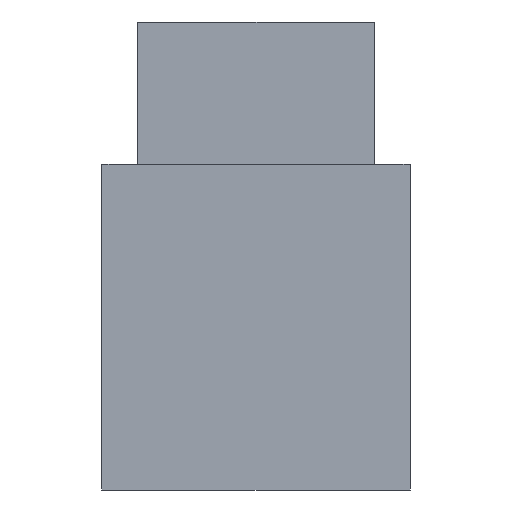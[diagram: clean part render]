
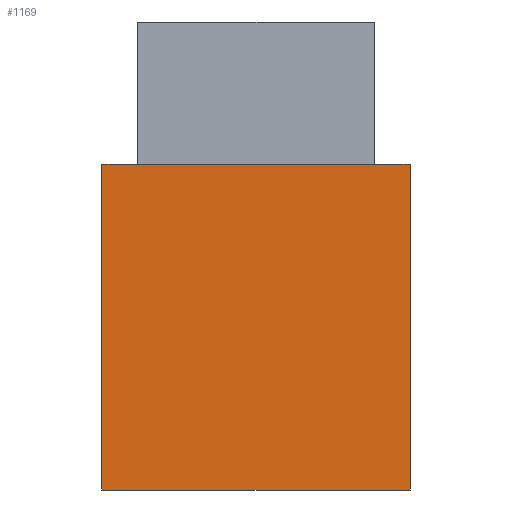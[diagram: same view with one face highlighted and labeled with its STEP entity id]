
A CAD part, left-side view. The second image highlights one B-rep face of the part: STEP entity #1169.
In plain terms, the highlighted planar face has unit normal (-1, 0, 0).
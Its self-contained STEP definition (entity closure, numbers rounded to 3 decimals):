
#303 = VERTEX_POINT('',#304);
#304 = CARTESIAN_POINT('',(42.5,8.,-6.));
#318 = PLANE('',#319);
#319 = AXIS2_PLACEMENT_3D('',#320,#321,#322);
#320 = CARTESIAN_POINT('',(42.5,-13.,-6.));
#321 = DIRECTION('',(0.,0.,1.));
#322 = DIRECTION('',(1.,0.,-0.));
#346 = PLANE('',#347);
#347 = AXIS2_PLACEMENT_3D('',#348,#349,#350);
#348 = CARTESIAN_POINT('',(0.,-8.,-6.));
#349 = DIRECTION('',(0.,0.,1.));
#350 = DIRECTION('',(1.,0.,-0.));
#789 = VERTEX_POINT('',#790);
#790 = CARTESIAN_POINT('',(42.5,-8.,-6.));
#804 = PLANE('',#805);
#805 = AXIS2_PLACEMENT_3D('',#806,#807,#808);
#806 = CARTESIAN_POINT('',(42.5,-13.,-6.));
#807 = DIRECTION('',(0.,0.,1.));
#808 = DIRECTION('',(1.,0.,-0.));
#906 = EDGE_CURVE('',#789,#303,#907,.T.);
#907 = SURFACE_CURVE('',#908,(#912,#919),.PCURVE_S1.);
#908 = LINE('',#909,#910);
#909 = CARTESIAN_POINT('',(42.5,-13.,-6.));
#910 = VECTOR('',#911,1.);
#911 = DIRECTION('',(-0.,1.,0.));
#912 = PCURVE('',#346,#913);
#913 = DEFINITIONAL_REPRESENTATION('',(#914),#918);
#914 = LINE('',#915,#916);
#915 = CARTESIAN_POINT('',(42.5,-5.));
#916 = VECTOR('',#917,1.);
#917 = DIRECTION('',(0.,1.));
#918 = ( GEOMETRIC_REPRESENTATION_CONTEXT(2) 
PARAMETRIC_REPRESENTATION_CONTEXT() REPRESENTATION_CONTEXT('2D SPACE',''
  ) );
#919 = PCURVE('',#920,#925);
#920 = PLANE('',#921);
#921 = AXIS2_PLACEMENT_3D('',#922,#923,#924);
#922 = CARTESIAN_POINT('',(42.5,-13.,-33.5));
#923 = DIRECTION('',(1.,0.,-0.));
#924 = DIRECTION('',(0.,0.,1.));
#925 = DEFINITIONAL_REPRESENTATION('',(#926),#930);
#926 = LINE('',#927,#928);
#927 = CARTESIAN_POINT('',(27.5,0.));
#928 = VECTOR('',#929,1.);
#929 = DIRECTION('',(0.,-1.));
#930 = ( GEOMETRIC_REPRESENTATION_CONTEXT(2) 
PARAMETRIC_REPRESENTATION_CONTEXT() REPRESENTATION_CONTEXT('2D SPACE',''
  ) );
#935 = EDGE_CURVE('',#303,#936,#938,.T.);
#936 = VERTEX_POINT('',#937);
#937 = CARTESIAN_POINT('',(42.5,13.,-6.));
#938 = SURFACE_CURVE('',#939,(#943,#950),.PCURVE_S1.);
#939 = LINE('',#940,#941);
#940 = CARTESIAN_POINT('',(42.5,-13.,-6.));
#941 = VECTOR('',#942,1.);
#942 = DIRECTION('',(-0.,1.,0.));
#943 = PCURVE('',#318,#944);
#944 = DEFINITIONAL_REPRESENTATION('',(#945),#949);
#945 = LINE('',#946,#947);
#946 = CARTESIAN_POINT('',(0.,0.));
#947 = VECTOR('',#948,1.);
#948 = DIRECTION('',(0.,1.));
#949 = ( GEOMETRIC_REPRESENTATION_CONTEXT(2) 
PARAMETRIC_REPRESENTATION_CONTEXT() REPRESENTATION_CONTEXT('2D SPACE',''
  ) );
#950 = PCURVE('',#920,#951);
#951 = DEFINITIONAL_REPRESENTATION('',(#952),#956);
#952 = LINE('',#953,#954);
#953 = CARTESIAN_POINT('',(27.5,0.));
#954 = VECTOR('',#955,1.);
#955 = DIRECTION('',(0.,-1.));
#956 = ( GEOMETRIC_REPRESENTATION_CONTEXT(2) 
PARAMETRIC_REPRESENTATION_CONTEXT() REPRESENTATION_CONTEXT('2D SPACE',''
  ) );
#1001 = PLANE('',#1002);
#1002 = AXIS2_PLACEMENT_3D('',#1003,#1004,#1005);
#1003 = CARTESIAN_POINT('',(42.5,13.,-33.5));
#1004 = DIRECTION('',(-0.,1.,0.));
#1005 = DIRECTION('',(0.,0.,1.));
#1097 = EDGE_CURVE('',#1098,#789,#1100,.T.);
#1098 = VERTEX_POINT('',#1099);
#1099 = CARTESIAN_POINT('',(42.5,-13.,-6.));
#1100 = SURFACE_CURVE('',#1101,(#1105,#1112),.PCURVE_S1.);
#1101 = LINE('',#1102,#1103);
#1102 = CARTESIAN_POINT('',(42.5,-13.,-6.));
#1103 = VECTOR('',#1104,1.);
#1104 = DIRECTION('',(-0.,1.,0.));
#1105 = PCURVE('',#804,#1106);
#1106 = DEFINITIONAL_REPRESENTATION('',(#1107),#1111);
#1107 = LINE('',#1108,#1109);
#1108 = CARTESIAN_POINT('',(0.,0.));
#1109 = VECTOR('',#1110,1.);
#1110 = DIRECTION('',(0.,1.));
#1111 = ( GEOMETRIC_REPRESENTATION_CONTEXT(2) 
PARAMETRIC_REPRESENTATION_CONTEXT() REPRESENTATION_CONTEXT('2D SPACE',''
  ) );
#1112 = PCURVE('',#920,#1113);
#1113 = DEFINITIONAL_REPRESENTATION('',(#1114),#1118);
#1114 = LINE('',#1115,#1116);
#1115 = CARTESIAN_POINT('',(27.5,0.));
#1116 = VECTOR('',#1117,1.);
#1117 = DIRECTION('',(0.,-1.));
#1118 = ( GEOMETRIC_REPRESENTATION_CONTEXT(2) 
PARAMETRIC_REPRESENTATION_CONTEXT() REPRESENTATION_CONTEXT('2D SPACE',''
  ) );
#1136 = PLANE('',#1137);
#1137 = AXIS2_PLACEMENT_3D('',#1138,#1139,#1140);
#1138 = CARTESIAN_POINT('',(42.5,-13.,-33.5));
#1139 = DIRECTION('',(-0.,1.,0.));
#1140 = DIRECTION('',(0.,0.,1.));
#1169 = ADVANCED_FACE('',(#1170),#920,.F.);
#1170 = FACE_BOUND('',#1171,.F.);
#1171 = EDGE_LOOP('',(#1172,#1195,#1223,#1244,#1245,#1246));
#1172 = ORIENTED_EDGE('',*,*,#1173,.F.);
#1173 = EDGE_CURVE('',#1174,#1098,#1176,.T.);
#1174 = VERTEX_POINT('',#1175);
#1175 = CARTESIAN_POINT('',(42.5,-13.,-33.5));
#1176 = SURFACE_CURVE('',#1177,(#1181,#1188),.PCURVE_S1.);
#1177 = LINE('',#1178,#1179);
#1178 = CARTESIAN_POINT('',(42.5,-13.,-33.5));
#1179 = VECTOR('',#1180,1.);
#1180 = DIRECTION('',(0.,0.,1.));
#1181 = PCURVE('',#920,#1182);
#1182 = DEFINITIONAL_REPRESENTATION('',(#1183),#1187);
#1183 = LINE('',#1184,#1185);
#1184 = CARTESIAN_POINT('',(0.,0.));
#1185 = VECTOR('',#1186,1.);
#1186 = DIRECTION('',(1.,0.));
#1187 = ( GEOMETRIC_REPRESENTATION_CONTEXT(2) 
PARAMETRIC_REPRESENTATION_CONTEXT() REPRESENTATION_CONTEXT('2D SPACE',''
  ) );
#1188 = PCURVE('',#1136,#1189);
#1189 = DEFINITIONAL_REPRESENTATION('',(#1190),#1194);
#1190 = LINE('',#1191,#1192);
#1191 = CARTESIAN_POINT('',(0.,0.));
#1192 = VECTOR('',#1193,1.);
#1193 = DIRECTION('',(1.,0.));
#1194 = ( GEOMETRIC_REPRESENTATION_CONTEXT(2) 
PARAMETRIC_REPRESENTATION_CONTEXT() REPRESENTATION_CONTEXT('2D SPACE',''
  ) );
#1195 = ORIENTED_EDGE('',*,*,#1196,.T.);
#1196 = EDGE_CURVE('',#1174,#1197,#1199,.T.);
#1197 = VERTEX_POINT('',#1198);
#1198 = CARTESIAN_POINT('',(42.5,13.,-33.5));
#1199 = SURFACE_CURVE('',#1200,(#1204,#1211),.PCURVE_S1.);
#1200 = LINE('',#1201,#1202);
#1201 = CARTESIAN_POINT('',(42.5,-13.,-33.5));
#1202 = VECTOR('',#1203,1.);
#1203 = DIRECTION('',(-0.,1.,0.));
#1204 = PCURVE('',#920,#1205);
#1205 = DEFINITIONAL_REPRESENTATION('',(#1206),#1210);
#1206 = LINE('',#1207,#1208);
#1207 = CARTESIAN_POINT('',(0.,0.));
#1208 = VECTOR('',#1209,1.);
#1209 = DIRECTION('',(0.,-1.));
#1210 = ( GEOMETRIC_REPRESENTATION_CONTEXT(2) 
PARAMETRIC_REPRESENTATION_CONTEXT() REPRESENTATION_CONTEXT('2D SPACE',''
  ) );
#1211 = PCURVE('',#1212,#1217);
#1212 = PLANE('',#1213);
#1213 = AXIS2_PLACEMENT_3D('',#1214,#1215,#1216);
#1214 = CARTESIAN_POINT('',(42.5,-13.,-33.5));
#1215 = DIRECTION('',(0.,0.,1.));
#1216 = DIRECTION('',(1.,0.,-0.));
#1217 = DEFINITIONAL_REPRESENTATION('',(#1218),#1222);
#1218 = LINE('',#1219,#1220);
#1219 = CARTESIAN_POINT('',(0.,0.));
#1220 = VECTOR('',#1221,1.);
#1221 = DIRECTION('',(0.,1.));
#1222 = ( GEOMETRIC_REPRESENTATION_CONTEXT(2) 
PARAMETRIC_REPRESENTATION_CONTEXT() REPRESENTATION_CONTEXT('2D SPACE',''
  ) );
#1223 = ORIENTED_EDGE('',*,*,#1224,.T.);
#1224 = EDGE_CURVE('',#1197,#936,#1225,.T.);
#1225 = SURFACE_CURVE('',#1226,(#1230,#1237),.PCURVE_S1.);
#1226 = LINE('',#1227,#1228);
#1227 = CARTESIAN_POINT('',(42.5,13.,-33.5));
#1228 = VECTOR('',#1229,1.);
#1229 = DIRECTION('',(0.,0.,1.));
#1230 = PCURVE('',#920,#1231);
#1231 = DEFINITIONAL_REPRESENTATION('',(#1232),#1236);
#1232 = LINE('',#1233,#1234);
#1233 = CARTESIAN_POINT('',(0.,-26.));
#1234 = VECTOR('',#1235,1.);
#1235 = DIRECTION('',(1.,0.));
#1236 = ( GEOMETRIC_REPRESENTATION_CONTEXT(2) 
PARAMETRIC_REPRESENTATION_CONTEXT() REPRESENTATION_CONTEXT('2D SPACE',''
  ) );
#1237 = PCURVE('',#1001,#1238);
#1238 = DEFINITIONAL_REPRESENTATION('',(#1239),#1243);
#1239 = LINE('',#1240,#1241);
#1240 = CARTESIAN_POINT('',(0.,0.));
#1241 = VECTOR('',#1242,1.);
#1242 = DIRECTION('',(1.,0.));
#1243 = ( GEOMETRIC_REPRESENTATION_CONTEXT(2) 
PARAMETRIC_REPRESENTATION_CONTEXT() REPRESENTATION_CONTEXT('2D SPACE',''
  ) );
#1244 = ORIENTED_EDGE('',*,*,#935,.F.);
#1245 = ORIENTED_EDGE('',*,*,#906,.F.);
#1246 = ORIENTED_EDGE('',*,*,#1097,.F.);
